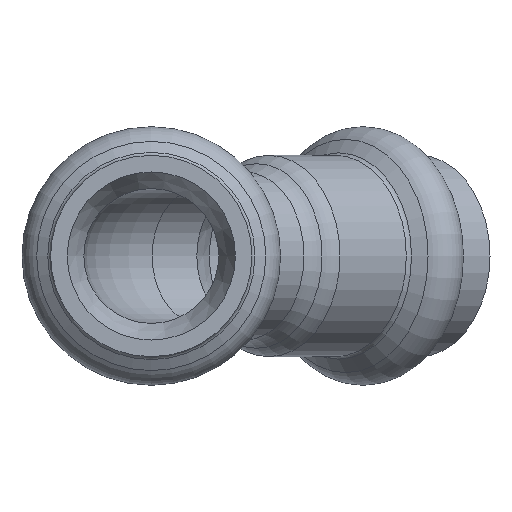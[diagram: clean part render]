
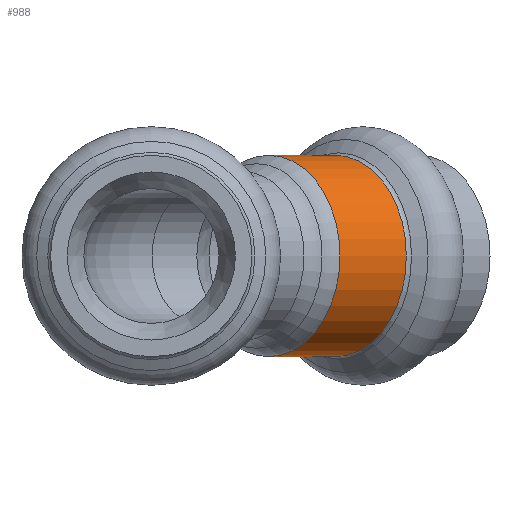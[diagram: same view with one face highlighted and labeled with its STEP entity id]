
A CAD part, front view. The second image highlights one B-rep face of the part: STEP entity #988.
In plain terms, the highlighted cylindrical face has radius 12.776 mm (diameter 25.552 mm), a full revolution.
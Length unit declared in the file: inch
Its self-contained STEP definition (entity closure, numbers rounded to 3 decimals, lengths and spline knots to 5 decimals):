
#60=CYLINDRICAL_SURFACE('',#1164,0.503);
#80=LINE('',#1861,#102);
#102=VECTOR('',#1525,0.503);
#152=FACE_OUTER_BOUND('',#196,.T.);
#196=EDGE_LOOP('',(#849,#850,#851,#852,#853,#854,#855,#856));
#206=CIRCLE('',#1020,0.503);
#207=CIRCLE('',#1021,0.503);
#208=CIRCLE('',#1022,0.503);
#315=CIRCLE('',#1165,0.503);
#316=CIRCLE('',#1166,0.503);
#317=CIRCLE('',#1167,0.503);
#333=VERTEX_POINT('',#1598);
#334=VERTEX_POINT('',#1599);
#335=VERTEX_POINT('',#1601);
#427=VERTEX_POINT('',#1856);
#428=VERTEX_POINT('',#1857);
#429=VERTEX_POINT('',#1859);
#444=EDGE_CURVE('',#333,#334,#206,.T.);
#445=EDGE_CURVE('',#335,#333,#207,.T.);
#446=EDGE_CURVE('',#334,#335,#208,.T.);
#572=EDGE_CURVE('',#427,#428,#315,.T.);
#573=EDGE_CURVE('',#429,#427,#316,.T.);
#574=EDGE_CURVE('',#429,#335,#80,.T.);
#575=EDGE_CURVE('',#428,#429,#317,.T.);
#849=ORIENTED_EDGE('',*,*,#572,.F.);
#850=ORIENTED_EDGE('',*,*,#573,.F.);
#851=ORIENTED_EDGE('',*,*,#574,.T.);
#852=ORIENTED_EDGE('',*,*,#445,.T.);
#853=ORIENTED_EDGE('',*,*,#444,.T.);
#854=ORIENTED_EDGE('',*,*,#446,.T.);
#855=ORIENTED_EDGE('',*,*,#574,.F.);
#856=ORIENTED_EDGE('',*,*,#575,.F.);
#988=ADVANCED_FACE('',(#152),#60,.T.);
#1020=AXIS2_PLACEMENT_3D('',#1600,#1212,#1213);
#1021=AXIS2_PLACEMENT_3D('',#1602,#1214,#1215);
#1022=AXIS2_PLACEMENT_3D('',#1603,#1216,#1217);
#1164=AXIS2_PLACEMENT_3D('',#1855,#1519,#1520);
#1165=AXIS2_PLACEMENT_3D('',#1858,#1521,#1522);
#1166=AXIS2_PLACEMENT_3D('',#1860,#1523,#1524);
#1167=AXIS2_PLACEMENT_3D('',#1862,#1526,#1527);
#1212=DIRECTION('center_axis',(0.707,0.707,0.));
#1213=DIRECTION('ref_axis',(-0.707,0.707,0.));
#1214=DIRECTION('center_axis',(0.707,0.707,0.));
#1215=DIRECTION('ref_axis',(-0.707,0.707,0.));
#1216=DIRECTION('center_axis',(0.707,0.707,0.));
#1217=DIRECTION('ref_axis',(-0.707,0.707,0.));
#1519=DIRECTION('center_axis',(0.707,0.707,0.));
#1520=DIRECTION('ref_axis',(-0.707,0.707,0.));
#1521=DIRECTION('center_axis',(0.707,0.707,0.));
#1522=DIRECTION('ref_axis',(-0.707,0.707,0.));
#1523=DIRECTION('center_axis',(0.707,0.707,0.));
#1524=DIRECTION('ref_axis',(-0.707,0.707,0.));
#1525=DIRECTION('',(-0.707,-0.707,0.));
#1526=DIRECTION('center_axis',(0.707,0.707,0.));
#1527=DIRECTION('ref_axis',(-0.707,0.707,0.));
#1598=CARTESIAN_POINT('',(0.23122,0.94257,0.));
#1599=CARTESIAN_POINT('',(0.5869,0.5869,0.503));
#1600=CARTESIAN_POINT('Origin',(0.5869,0.5869,0.));
#1601=CARTESIAN_POINT('',(0.94257,0.23122,0.));
#1602=CARTESIAN_POINT('Origin',(0.5869,0.5869,0.));
#1603=CARTESIAN_POINT('Origin',(0.5869,0.5869,0.));
#1855=CARTESIAN_POINT('Origin',(0.75263,0.75263,0.));
#1856=CARTESIAN_POINT('',(0.56268,1.27403,0.));
#1857=CARTESIAN_POINT('',(0.91835,0.91835,0.503));
#1858=CARTESIAN_POINT('Origin',(0.91835,0.91835,0.));
#1859=CARTESIAN_POINT('',(1.27403,0.56268,0.));
#1860=CARTESIAN_POINT('Origin',(0.91835,0.91835,0.));
#1861=CARTESIAN_POINT('',(1.1083,0.39695,0.));
#1862=CARTESIAN_POINT('Origin',(0.91835,0.91835,0.));
